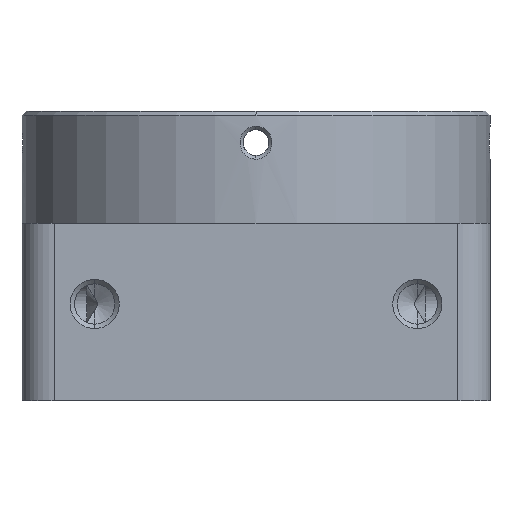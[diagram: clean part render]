
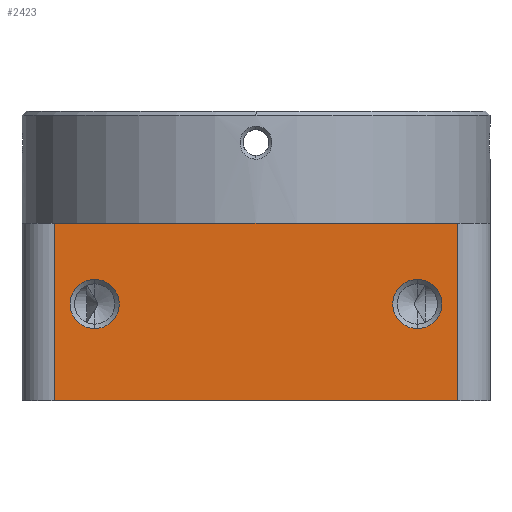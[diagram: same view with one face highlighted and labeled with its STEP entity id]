
A CAD part, left-side view. The second image highlights one B-rep face of the part: STEP entity #2423.
In plain terms, the highlighted planar face has unit normal (-1, 0, 0).
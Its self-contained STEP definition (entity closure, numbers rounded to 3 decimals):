
#1625 = VERTEX_POINT('',#1626);
#1626 = CARTESIAN_POINT('',(-14.5,0.,11.));
#2396 = EDGE_CURVE('',#1625,#2397,#2399,.T.);
#2397 = VERTEX_POINT('',#2398);
#2398 = CARTESIAN_POINT('',(-14.5,-12.5,11.));
#2399 = LINE('',#2400,#2401);
#2400 = CARTESIAN_POINT('',(-14.5,14.5,11.));
#2401 = VECTOR('',#2402,1.);
#2402 = DIRECTION('',(0.,-1.,0.));
#2423 = ADVANCED_FACE('',(#2424,#2444,#2464),#2497,.F.);
#2424 = FACE_BOUND('',#2425,.T.);
#2425 = EDGE_LOOP('',(#2426,#2437));
#2426 = ORIENTED_EDGE('',*,*,#2427,.F.);
#2427 = EDGE_CURVE('',#2428,#2430,#2432,.T.);
#2428 = VERTEX_POINT('',#2429);
#2429 = CARTESIAN_POINT('',(-14.5,10.,7.525));
#2430 = VERTEX_POINT('',#2431);
#2431 = CARTESIAN_POINT('',(-14.5,10.,4.475));
#2432 = CIRCLE('',#2433,1.525);
#2433 = AXIS2_PLACEMENT_3D('',#2434,#2435,#2436);
#2434 = CARTESIAN_POINT('',(-14.5,10.,6.));
#2435 = DIRECTION('',(-1.,0.,0.));
#2436 = DIRECTION('',(0.,0.,1.));
#2437 = ORIENTED_EDGE('',*,*,#2438,.F.);
#2438 = EDGE_CURVE('',#2430,#2428,#2439,.T.);
#2439 = CIRCLE('',#2440,1.525);
#2440 = AXIS2_PLACEMENT_3D('',#2441,#2442,#2443);
#2441 = CARTESIAN_POINT('',(-14.5,10.,6.));
#2442 = DIRECTION('',(-1.,0.,0.));
#2443 = DIRECTION('',(0.,0.,1.));
#2444 = FACE_BOUND('',#2445,.T.);
#2445 = EDGE_LOOP('',(#2446,#2457));
#2446 = ORIENTED_EDGE('',*,*,#2447,.F.);
#2447 = EDGE_CURVE('',#2448,#2450,#2452,.T.);
#2448 = VERTEX_POINT('',#2449);
#2449 = CARTESIAN_POINT('',(-14.5,-10.,7.525));
#2450 = VERTEX_POINT('',#2451);
#2451 = CARTESIAN_POINT('',(-14.5,-10.,4.475));
#2452 = CIRCLE('',#2453,1.525);
#2453 = AXIS2_PLACEMENT_3D('',#2454,#2455,#2456);
#2454 = CARTESIAN_POINT('',(-14.5,-10.,6.));
#2455 = DIRECTION('',(-1.,0.,0.));
#2456 = DIRECTION('',(0.,0.,1.));
#2457 = ORIENTED_EDGE('',*,*,#2458,.F.);
#2458 = EDGE_CURVE('',#2450,#2448,#2459,.T.);
#2459 = CIRCLE('',#2460,1.525);
#2460 = AXIS2_PLACEMENT_3D('',#2461,#2462,#2463);
#2461 = CARTESIAN_POINT('',(-14.5,-10.,6.));
#2462 = DIRECTION('',(-1.,0.,0.));
#2463 = DIRECTION('',(0.,0.,1.));
#2464 = FACE_BOUND('',#2465,.T.);
#2465 = EDGE_LOOP('',(#2466,#2476,#2482,#2483,#2491));
#2466 = ORIENTED_EDGE('',*,*,#2467,.T.);
#2467 = EDGE_CURVE('',#2468,#2470,#2472,.T.);
#2468 = VERTEX_POINT('',#2469);
#2469 = CARTESIAN_POINT('',(-14.5,12.5,0.));
#2470 = VERTEX_POINT('',#2471);
#2471 = CARTESIAN_POINT('',(-14.5,-12.5,0.));
#2472 = LINE('',#2473,#2474);
#2473 = CARTESIAN_POINT('',(-14.5,14.5,0.));
#2474 = VECTOR('',#2475,1.);
#2475 = DIRECTION('',(0.,-1.,0.));
#2476 = ORIENTED_EDGE('',*,*,#2477,.T.);
#2477 = EDGE_CURVE('',#2470,#2397,#2478,.T.);
#2478 = LINE('',#2479,#2480);
#2479 = CARTESIAN_POINT('',(-14.5,-12.5,11.));
#2480 = VECTOR('',#2481,1.);
#2481 = DIRECTION('',(0.,0.,1.));
#2482 = ORIENTED_EDGE('',*,*,#2396,.F.);
#2483 = ORIENTED_EDGE('',*,*,#2484,.F.);
#2484 = EDGE_CURVE('',#2485,#1625,#2487,.T.);
#2485 = VERTEX_POINT('',#2486);
#2486 = CARTESIAN_POINT('',(-14.5,12.5,11.));
#2487 = LINE('',#2488,#2489);
#2488 = CARTESIAN_POINT('',(-14.5,14.5,11.));
#2489 = VECTOR('',#2490,1.);
#2490 = DIRECTION('',(0.,-1.,0.));
#2491 = ORIENTED_EDGE('',*,*,#2492,.T.);
#2492 = EDGE_CURVE('',#2485,#2468,#2493,.T.);
#2493 = LINE('',#2494,#2495);
#2494 = CARTESIAN_POINT('',(-14.5,12.5,11.));
#2495 = VECTOR('',#2496,1.);
#2496 = DIRECTION('',(0.,0.,-1.));
#2497 = PLANE('',#2498);
#2498 = AXIS2_PLACEMENT_3D('',#2499,#2500,#2501);
#2499 = CARTESIAN_POINT('',(-14.5,14.5,11.));
#2500 = DIRECTION('',(1.,0.,0.));
#2501 = DIRECTION('',(0.,1.,0.));
